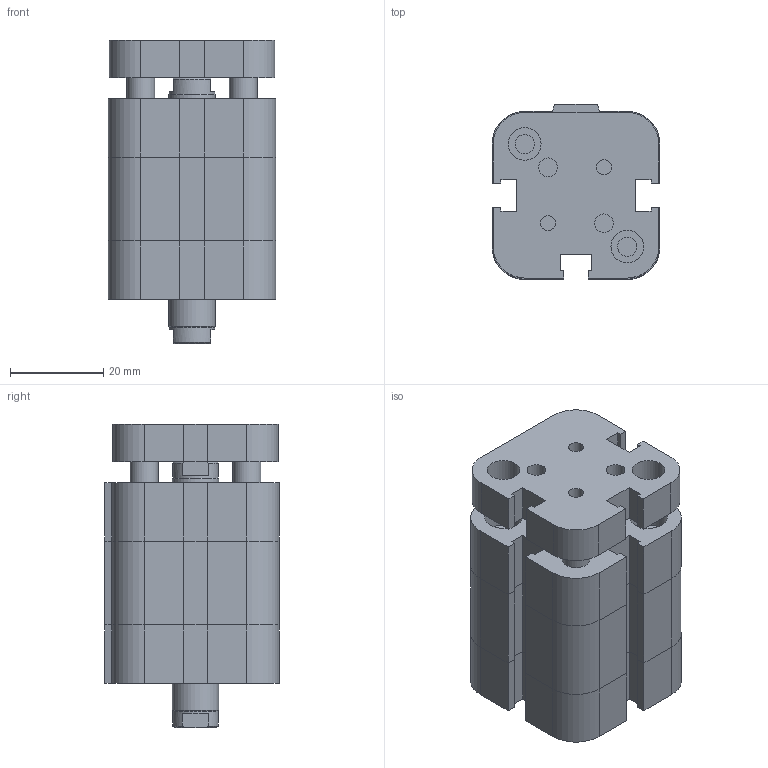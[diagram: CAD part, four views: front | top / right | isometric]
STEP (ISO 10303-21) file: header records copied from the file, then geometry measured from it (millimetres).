
FILE_DESCRIPTION((''),'2;1');
FILE_NAME('I:\Area Tecnica\Disegni\VARIE-3D\Componenti\EUROPE\15##_###_####_08_#\1581_20_0005_08_1.iam.stp','2009-04-20T15:30:14',(''),(''),'Autodesk Inventor 2009','Autodesk Inventor 2009','');
FILE_SCHEMA(('AUTOMOTIVE_DESIGN { 1 0 10303 214 1 1 1 1 }'));
Length unit declared in the file: millimetre
Products named in the file (3): 1581_20_0005_08_1; 1581_20_0005_08_1_C; 1561_20_0005_08_1_SA
Assembly tree (2 placements, depth 2):
  1581_20_0005_08_1
    1581_20_0005_08_1_C
    1561_20_0005_08_1_SA
Bounding box: 36 x 37.5 x 65 mm (x, y, z)
Volume: 57028.8 mm3; surface area: 20713.9 mm2
Topology: 2 solids, 2 shells, 209 faces, 490 edges, 306 vertices
Faces by surface type: plane 135, bspline 47, cylinder 21, cone 6
Full cylindrical faces by diameter (mm): 6 x2, 9.8 x2, 10 x1
Entity records: 6154 total; most frequent: CARTESIAN_POINT 1453, ORIENTED_EDGE 884, DIRECTION 862, EDGE_CURVE 442, VECTOR 340, LINE 340, VERTEX_POINT 290, EDGE_LOOP 276
